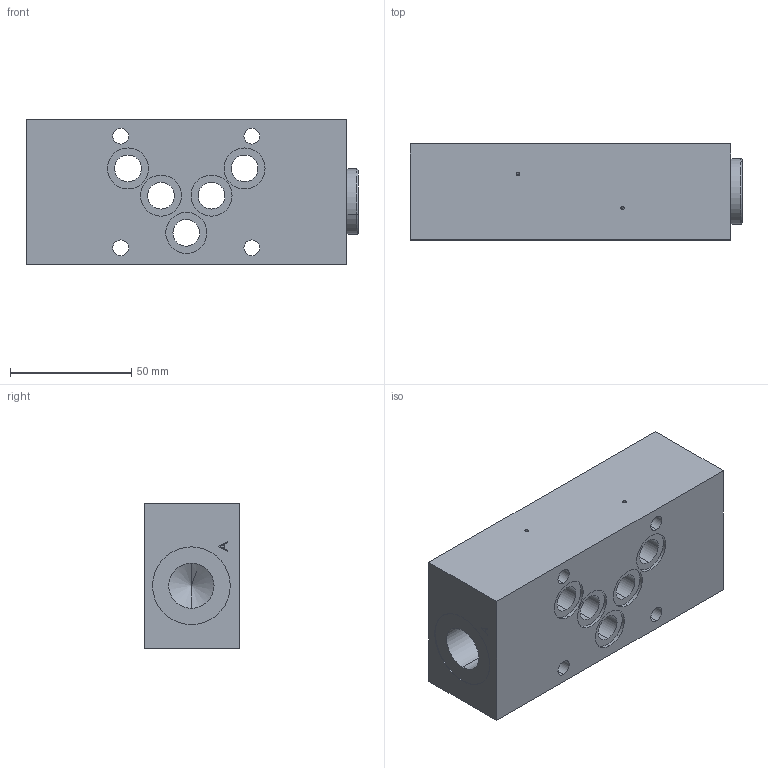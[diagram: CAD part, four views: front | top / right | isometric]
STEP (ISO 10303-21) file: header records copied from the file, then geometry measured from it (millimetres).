
FILE_DESCRIPTION (( 'STEP AP214' ), '1' );
FILE_NAME ('ASGKA10.STEP', '2017-03-20T06:11:51', ( '' ), ( '' ), 'SwSTEP 2.0', 'SolidWorks 2016', '' );
FILE_SCHEMA (( 'AUTOMOTIVE_DESIGN' ));
Length unit declared in the file: millimetre
Products named in the file (1): ASGKA10
Bounding box: 136.7 x 39.5 x 60 mm (x, y, z)
Volume: 284740.3 mm3; surface area: 45496.7 mm2
Topology: 3 solids, 3 shells, 132 faces, 313 edges, 197 vertices
Faces by surface type: cylinder 54, plane 51, cone 16, bspline 9, torus 2
Entity records: 5785 total; most frequent: CARTESIAN_POINT 1194, DIRECTION 649, ORIENTED_EDGE 606, EDGE_CURVE 303, AXIS2_PLACEMENT_3D 240, VERTEX_POINT 197, EDGE_LOOP 172, VECTOR 169
